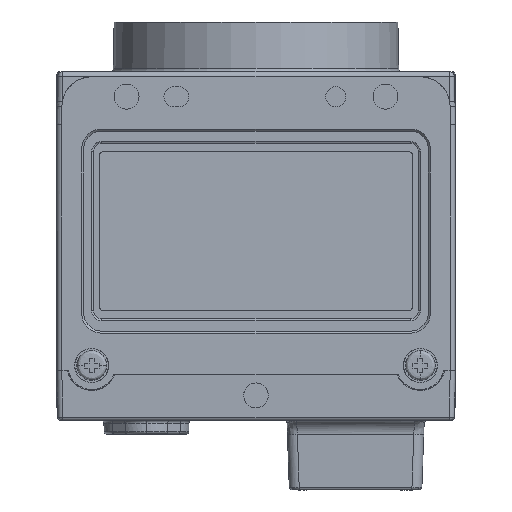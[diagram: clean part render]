
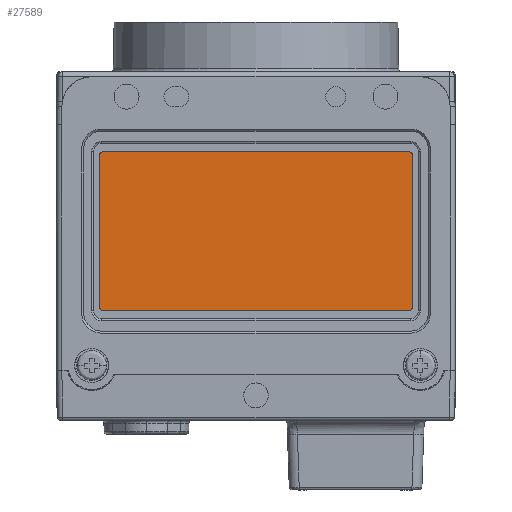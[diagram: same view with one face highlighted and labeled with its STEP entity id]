
A CAD part, front view. The second image highlights one B-rep face of the part: STEP entity #27589.
In plain terms, the highlighted planar face has unit normal (0, -1, 0).
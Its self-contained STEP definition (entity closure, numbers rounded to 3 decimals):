
#73 = DIRECTION ( 'NONE',  ( 0., 0., 1. ) ) ;
#2350 = EDGE_CURVE ( 'NONE', #29763, #29758, #17830, .T. ) ;
#2390 = EDGE_CURVE ( 'NONE', #29734, #29763, #17877, .T. ) ;
#2394 = EDGE_CURVE ( 'NONE', #29743, #29734, #17886, .T. ) ;
#2398 = EDGE_CURVE ( 'NONE', #29738, #29756, #17889, .T. ) ;
#2431 = EDGE_CURVE ( 'NONE', #29756, #29743, #17934, .T. ) ;
#2441 = EDGE_CURVE ( 'NONE', #29729, #29762, #17948, .T. ) ;
#2470 = EDGE_CURVE ( 'NONE', #29758, #29729, #17988, .T. ) ;
#2519 = EDGE_CURVE ( 'NONE', #29762, #29738, #18042, .T. ) ;
#3338 = EDGE_LOOP ( 'NONE', ( #24821, #24543, #24518, #4286, #24501, #24417, #24408, #24512 ) ) ;
#4286 = ORIENTED_EDGE ( 'NONE', *, *, #2470, .T. ) ;
#12882 = DIRECTION ( 'NONE',  ( 1., 0., 0. ) ) ;
#12902 = CARTESIAN_POINT ( 'NONE',  ( 15.25, -19.65, -13.5 ) ) ;
#13066 = DIRECTION ( 'NONE',  ( 1., 0., 0. ) ) ;
#13101 = CARTESIAN_POINT ( 'NONE',  ( -15.25, -19.65, -13.5 ) ) ;
#13172 = CARTESIAN_POINT ( 'NONE',  ( -15.25, -19.65, -29. ) ) ;
#13257 = DIRECTION ( 'NONE',  ( 0., -1., 0. ) ) ;
#13462 = DIRECTION ( 'NONE',  ( 1., 0., 0. ) ) ;
#13493 = CARTESIAN_POINT ( 'NONE',  ( -15.75, -19.65, -28.5 ) ) ;
#13524 = DIRECTION ( 'NONE',  ( 0., -1., 0. ) ) ;
#13533 = DIRECTION ( 'NONE',  ( 0., 0., -1. ) ) ;
#13604 = DIRECTION ( 'NONE',  ( 0., -1., 0. ) ) ;
#13665 = DIRECTION ( 'NONE',  ( 1., 0., 0. ) ) ;
#13684 = CARTESIAN_POINT ( 'NONE',  ( -15.25, -19.65, -28.5 ) ) ;
#13725 = CARTESIAN_POINT ( 'NONE',  ( 15.75, -19.65, -28.5 ) ) ;
#13733 = DIRECTION ( 'NONE',  ( 0., -1., 0. ) ) ;
#13774 = CARTESIAN_POINT ( 'NONE',  ( 15.25, -19.65, -28.5 ) ) ;
#13777 = DIRECTION ( 'NONE',  ( 1., 0., 0. ) ) ;
#16679 = AXIS2_PLACEMENT_3D ( 'NONE', #13774, #13257, #13777 ) ;
#16689 = AXIS2_PLACEMENT_3D ( 'NONE', #13684, #13733, #13462 ) ;
#16691 = AXIS2_PLACEMENT_3D ( 'NONE', #13101, #13524, #13066 ) ;
#16706 = AXIS2_PLACEMENT_3D ( 'NONE', #12902, #13604, #12882 ) ;
#17830 = CIRCLE ( 'NONE', #16679, 0.5 ) ;
#17877 = LINE ( 'NONE', #13172, #17882 ) ;
#17882 = VECTOR ( 'NONE', #13665, 1000. ) ;
#17886 = CIRCLE ( 'NONE', #16689, 0.5 ) ;
#17889 = CIRCLE ( 'NONE', #16691, 0.5 ) ;
#17934 = LINE ( 'NONE', #13493, #17937 ) ;
#17937 = VECTOR ( 'NONE', #13533, 1000. ) ;
#17948 = CIRCLE ( 'NONE', #16706, 0.5 ) ;
#17985 = VECTOR ( 'NONE', #73, 1000. ) ;
#17988 = LINE ( 'NONE', #13725, #17985 ) ;
#18042 = LINE ( 'NONE', #32228, #18046 ) ;
#18046 = VECTOR ( 'NONE', #31997, 1000. ) ;
#22170 = CARTESIAN_POINT ( 'NONE',  ( -15.25, -19.65, -29. ) ) ;
#22173 = CARTESIAN_POINT ( 'NONE',  ( 15.75, -19.65, -13.5 ) ) ;
#22180 = CARTESIAN_POINT ( 'NONE',  ( -15.25, -19.65, -13. ) ) ;
#22184 = CARTESIAN_POINT ( 'NONE',  ( -15.75, -19.65, -28.5 ) ) ;
#22196 = CARTESIAN_POINT ( 'NONE',  ( -15.75, -19.65, -13.5 ) ) ;
#22198 = CARTESIAN_POINT ( 'NONE',  ( 15.75, -19.65, -28.5 ) ) ;
#22201 = CARTESIAN_POINT ( 'NONE',  ( 15.25, -19.65, -13. ) ) ;
#22202 = CARTESIAN_POINT ( 'NONE',  ( 15.25, -19.65, -29. ) ) ;
#24408 = ORIENTED_EDGE ( 'NONE', *, *, #2398, .T. ) ;
#24417 = ORIENTED_EDGE ( 'NONE', *, *, #2519, .T. ) ;
#24501 = ORIENTED_EDGE ( 'NONE', *, *, #2441, .T. ) ;
#24512 = ORIENTED_EDGE ( 'NONE', *, *, #2431, .T. ) ;
#24518 = ORIENTED_EDGE ( 'NONE', *, *, #2350, .T. ) ;
#24543 = ORIENTED_EDGE ( 'NONE', *, *, #2390, .T. ) ;
#24821 = ORIENTED_EDGE ( 'NONE', *, *, #2394, .T. ) ;
#27589 = ADVANCED_FACE ( 'NONE', ( #32411 ), #32162, .T. ) ;
#28431 = AXIS2_PLACEMENT_3D ( 'NONE', #32160, #32188, #32189 ) ;
#29729 = VERTEX_POINT ( 'NONE', #22173 ) ;
#29734 = VERTEX_POINT ( 'NONE', #22170 ) ;
#29738 = VERTEX_POINT ( 'NONE', #22180 ) ;
#29743 = VERTEX_POINT ( 'NONE', #22184 ) ;
#29756 = VERTEX_POINT ( 'NONE', #22196 ) ;
#29758 = VERTEX_POINT ( 'NONE', #22198 ) ;
#29762 = VERTEX_POINT ( 'NONE', #22201 ) ;
#29763 = VERTEX_POINT ( 'NONE', #22202 ) ;
#31997 = DIRECTION ( 'NONE',  ( -1., 0., 0. ) ) ;
#32160 = CARTESIAN_POINT ( 'NONE',  ( -15.25, -19.65, -28.5 ) ) ;
#32162 = PLANE ( 'NONE',  #28431 ) ;
#32188 = DIRECTION ( 'NONE',  ( 0., -1., 0. ) ) ;
#32189 = DIRECTION ( 'NONE',  ( 1., 0., 0. ) ) ;
#32228 = CARTESIAN_POINT ( 'NONE',  ( -15.25, -19.65, -13. ) ) ;
#32411 = FACE_OUTER_BOUND ( 'NONE', #3338, .T. ) ;
